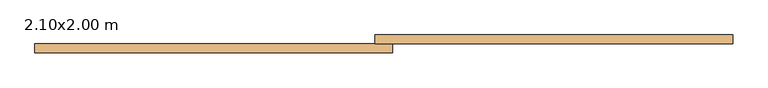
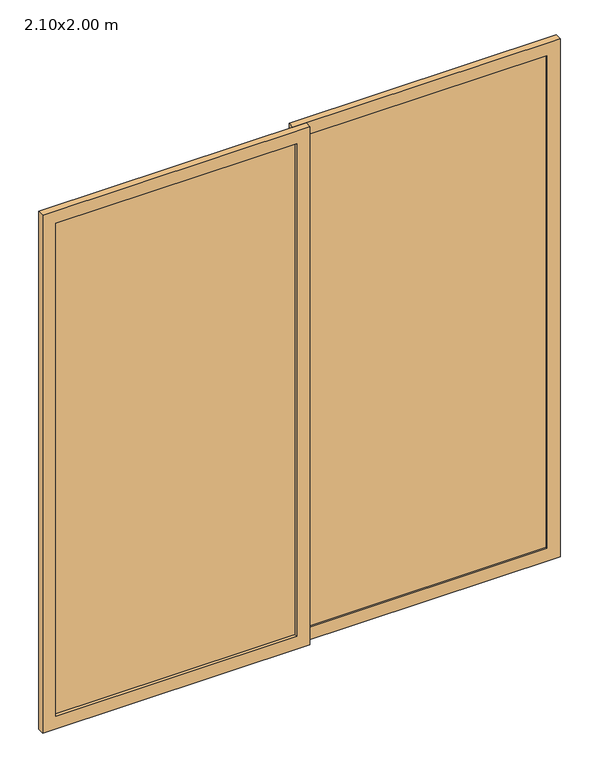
"""IFC4 building model written with IfcOpenShell, lengths in millimetres: door geometry, PUERTA CORREDIZA DE CRISTAL : 2.10x2.00 m."""

from ifc_helpers import new_model, si_unit, frame, origin, place, context, project, spatial, polyline, outline, extrude, source, transform, mapped, element, save


def door_2_10x2_00_m_3076c86e(model_context):
    return source(origin(), model_context, "Body", "SweptSolid", [
        extrude(outline(polyline([(949.2, 6.7), (25.4, 6.7), (25.4, 12.7), (949.2, 12.7), (949.2, 6.7)])), frame((0.0, 0.0, 50.8), z_axis=(0.0, 0.0, 1.0), x_axis=(1.0, 0.0, 0.0)), (0.0, 0.0, 1.0), 1998.4),
        extrude(outline(polyline([(-949.2, -6.7), (-25.4, -6.7), (-25.4, -12.7), (-949.2, -12.7), (-949.2, -6.7)])), frame((0.0, 0.0, 50.8), z_axis=(0.0, 0.0, 1.0), x_axis=(1.0, 0.0, 0.0)), (0.0, 0.0, 1.0), 1998.4),
        extrude(outline(polyline([(2100.0, -25.4), (0.0, -25.4), (0.0, 1000.0), (2100.0, 1000.0), (2100.0, -25.4)]), holes=[polyline([(2049.2, 949.2), (50.8, 949.2), (50.8, 25.4), (2049.2, 25.4), (2049.2, 949.2)])]), frame((0.0, 0.0, 0.0), z_axis=(0.0, 1.0, 0.0), x_axis=(0.0, 0.0, 1.0)), (0.0, 0.0, 1.0), 25.4),
        extrude(outline(polyline([(2100.0, 25.4), (2100.0, -1000.0), (0.0, -1000.0), (0.0, 25.4), (2100.0, 25.4)]), holes=[polyline([(2049.2, -25.4), (50.8, -25.4), (50.8, -949.2), (2049.2, -949.2), (2049.2, -25.4)])]), frame((0.0, -25.4, 0.0), z_axis=(0.0, 1.0, 0.0), x_axis=(0.0, 0.0, 1.0)), (0.0, 0.0, 1.0), 25.4),
    ])


if __name__ == "__main__":
    model = new_model("IFC4")
    model_context = context("Model", 3, world=origin())
    ifc_project = project(units=[si_unit("LENGTHUNIT", "METRE", prefix="MILLI")], contexts=[model_context])
    site = spatial("IfcSite", under=ifc_project)
    building = spatial("IfcBuilding", under=site)
    placement = place(None, origin())
    door_2_10x2_00_m_shape = door_2_10x2_00_m_3076c86e(model_context)
    element("IfcDoor", 1, ObjectType="PUERTA CORREDIZA DE CRISTAL : 2.10x2.00 m", at=placement, inside=building, context=model_context, shape_type="MappedRepresentation", body=[
        mapped(door_2_10x2_00_m_shape, transform((0.0, 0.0, 0.0), x_axis=(1.0, 0.0, 0.0), y_axis=(0.0, 1.0, 0.0), z_axis=(0.0, 0.0, 1.0))),
    ])
    save(model, "model.ifc")
